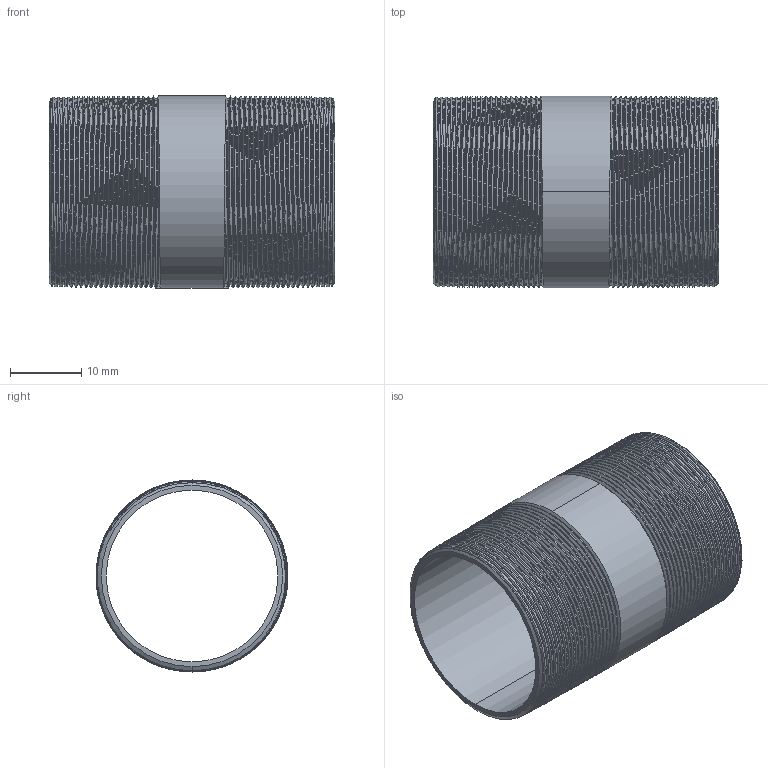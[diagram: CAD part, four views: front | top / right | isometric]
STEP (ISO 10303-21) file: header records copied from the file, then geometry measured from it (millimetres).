
FILE_DESCRIPTION (( 'STEP AP203' ), '1' );
FILE_NAME ('3D_R210_3-4x40_17148540.STEP', '2024-08-16T09:57:25', ( '' ), ( '' ), 'SwSTEP 2.0', 'SolidWorks 2024', '' );
FILE_SCHEMA (( 'CONFIG_CONTROL_DESIGN' ));
Length unit declared in the file: millimetre
Products named in the file (1): 3D_R210_3-4x40_17148540
Bounding box: 40 x 26.88 x 26.9 mm (x, y, z)
Volume: 3982.9 mm3; surface area: 7711.2 mm2
Topology: 1 solids, 1 shells, 106 faces, 304 edges, 200 vertices
Faces by surface type: cone 92, bspline 6, cylinder 4, plane 4
Entity records: 15699 total; most frequent: CARTESIAN_POINT 13257, ORIENTED_EDGE 608, DIRECTION 322, EDGE_CURVE 304, VERTEX_POINT 200, B_SPLINE_CURVE_WITH_KNOTS 188, AXIS2_PLACEMENT_3D 113, EDGE_LOOP 108
